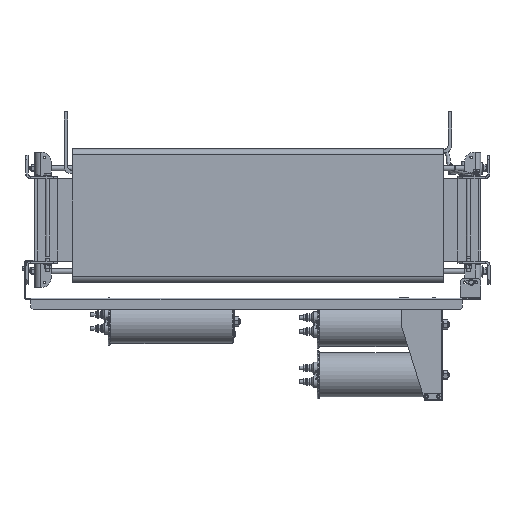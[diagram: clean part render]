
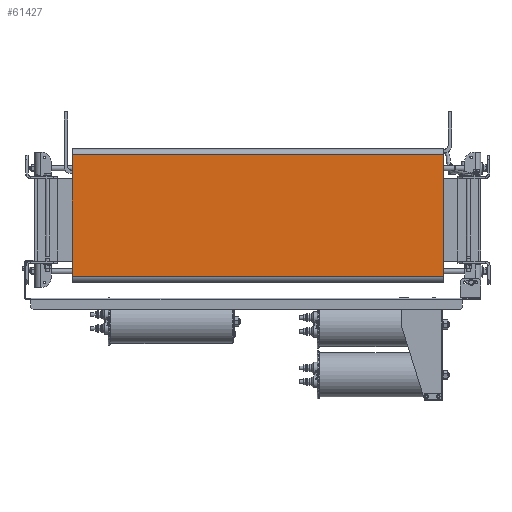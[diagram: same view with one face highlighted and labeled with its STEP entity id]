
A CAD part, left-side view. The second image highlights one B-rep face of the part: STEP entity #61427.
In plain terms, the highlighted planar face has unit normal (-1, 0, 0).
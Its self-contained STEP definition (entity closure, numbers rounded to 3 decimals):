
#3100=PLANE('',#66566);
#5917=FACE_OUTER_BOUND('',#9499,.T.);
#9499=EDGE_LOOP('',(#49218,#49219,#49220,#49221));
#14418=LINE('',#101517,#19526);
#14419=LINE('',#101523,#19527);
#14420=LINE('',#101524,#19528);
#14421=LINE('',#101525,#19529);
#19526=VECTOR('',#79820,10.);
#19527=VECTOR('',#79827,10.);
#19528=VECTOR('',#79828,10.);
#19529=VECTOR('',#79829,10.);
#27789=VERTEX_POINT('',#101515);
#27790=VERTEX_POINT('',#101516);
#27791=VERTEX_POINT('',#101521);
#27792=VERTEX_POINT('',#101522);
#35440=EDGE_CURVE('',#27789,#27790,#14418,.T.);
#35443=EDGE_CURVE('',#27791,#27792,#14419,.T.);
#35444=EDGE_CURVE('',#27789,#27791,#14420,.T.);
#35445=EDGE_CURVE('',#27792,#27790,#14421,.T.);
#49218=ORIENTED_EDGE('',*,*,#35443,.F.);
#49219=ORIENTED_EDGE('',*,*,#35444,.F.);
#49220=ORIENTED_EDGE('',*,*,#35440,.T.);
#49221=ORIENTED_EDGE('',*,*,#35445,.F.);
#61427=ADVANCED_FACE('',(#5917),#3100,.T.);
#66566=AXIS2_PLACEMENT_3D('',#101520,#79825,#79826);
#79820=DIRECTION('',(0.,-1.,0.));
#79825=DIRECTION('center_axis',(-1.,0.,0.));
#79826=DIRECTION('ref_axis',(0.,0.,1.));
#79827=DIRECTION('',(0.,-1.,0.));
#79828=DIRECTION('',(0.,0.,1.));
#79829=DIRECTION('',(0.,0.,-1.));
#101515=CARTESIAN_POINT('',(-203.828,405.,-123.562));
#101516=CARTESIAN_POINT('',(-203.828,-405.,-123.562));
#101517=CARTESIAN_POINT('',(-203.828,0.,-123.562));
#101520=CARTESIAN_POINT('Origin',(-203.828,0.,-123.562));
#101521=CARTESIAN_POINT('',(-203.828,405.,142.062));
#101522=CARTESIAN_POINT('',(-203.828,-405.,142.062));
#101523=CARTESIAN_POINT('',(-203.828,0.,142.062));
#101524=CARTESIAN_POINT('',(-203.828,405.,142.062));
#101525=CARTESIAN_POINT('',(-203.828,-405.,142.062));
